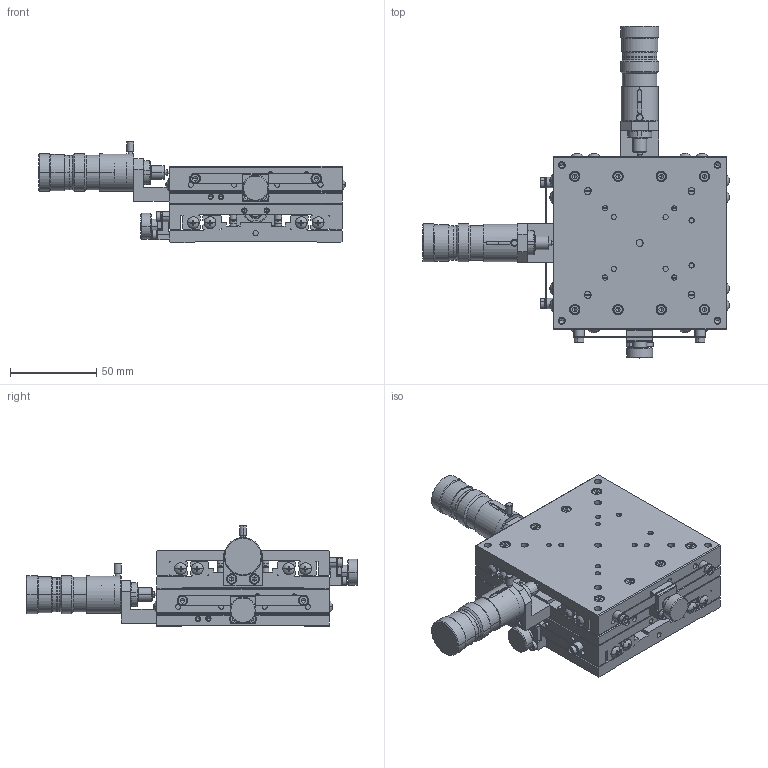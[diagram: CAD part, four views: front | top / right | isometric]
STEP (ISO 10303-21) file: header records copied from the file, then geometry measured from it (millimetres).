
FILE_DESCRIPTION (( 'STEP AP214' ), '1' );
FILE_NAME ('YM10A-C3-CL.STEP', '2009-05-11T08:09:54', ( ' ' ), ( ' ' ), 'SwSTEP 2.0', 'SolidWorks 2008', '' );
FILE_SCHEMA (( 'AUTOMOTIVE_DESIGN' ));
Length unit declared in the file: millimetre
Products named in the file (10): 001130-1011(3D)-4; XM10A-C3-CL(PL); YM10A-C3-CL; 001130-1022(3D)-3; 001130-1011(3D)-Part-2-4; 001130-1011(3D)-Part-1-4; 001130-1011(3D)-Part-2-5; 001130-1011(3D)-Part-1-5; 001130-1011(3D)-5; XM10A-C3-CL(PL)-1
Assembly tree (9 placements, depth 4):
  YM10A-C3-CL
    XM10A-C3-CL(PL)-1
      001130-1011(3D)-5
        001130-1011(3D)-Part-2-5
        001130-1011(3D)-Part-1-5
    XM10A-C3-CL(PL)
      001130-1022(3D)-3
      001130-1011(3D)-4
        001130-1011(3D)-Part-2-4
        001130-1011(3D)-Part-1-4
Bounding box: 177.37 x 192 x 58.5 mm (x, y, z)
Volume: 420403.3 mm3; surface area: 156195.4 mm2
Topology: 5 solids, 107 shells, 3626 faces, 8458 edges, 5044 vertices
Faces by surface type: plane 1634, cylinder 1122, cone 804, sphere 34, torus 32
Entity records: 102579 total; most frequent: DIRECTION 19004, CARTESIAN_POINT 17936, ORIENTED_EDGE 16476, EDGE_CURVE 8238, AXIS2_PLACEMENT_3D 7282, VERTEX_POINT 5042, LINE 4440, VECTOR 4440
